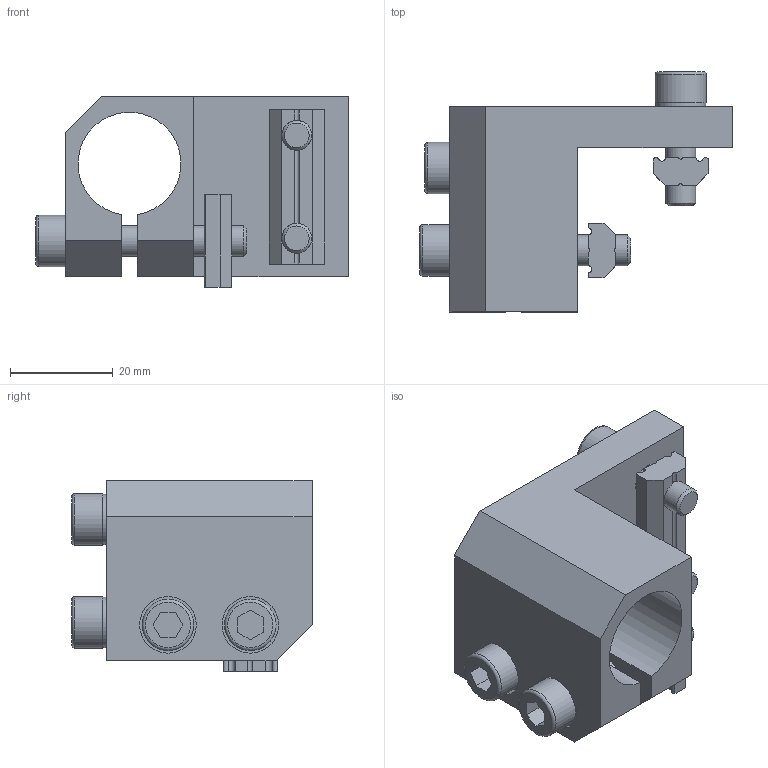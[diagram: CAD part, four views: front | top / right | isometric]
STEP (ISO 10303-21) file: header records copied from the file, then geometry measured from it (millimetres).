
FILE_DESCRIPTION (( 'STEP AP214' ), '1' );
FILE_NAME ('3352.STEP', '2024-06-13T17:58:07', ( '' ), ( '' ), 'SwSTEP 2.0', 'SolidWorks 2022', '' );
FILE_SCHEMA (( 'AUTOMOTIVE_DESIGN' ));
Length unit declared in the file: millimetre
Products named in the file (1): 3352
Bounding box: 60.71 x 46.66 x 37 mm (x, y, z)
Volume: 32074.6 mm3; surface area: 17787.9 mm2
Topology: 11 solids, 11 shells, 138 faces, 327 edges, 215 vertices
Faces by surface type: plane 84, cylinder 46, torus 4, cone 4
Full cylindrical faces by diameter (mm): 5 x2, 5.8 x4, 6 x2, 6.4 x4, 6.5 x2, 6.6 x3, 9.8 x2, 10 x6, 11 x2
Entity records: 4233 total; most frequent: CARTESIAN_POINT 744, DIRECTION 647, ORIENTED_EDGE 574, EDGE_CURVE 287, AXIS2_PLACEMENT_3D 233, VERTEX_POINT 210, EDGE_LOOP 203, LINE 181
